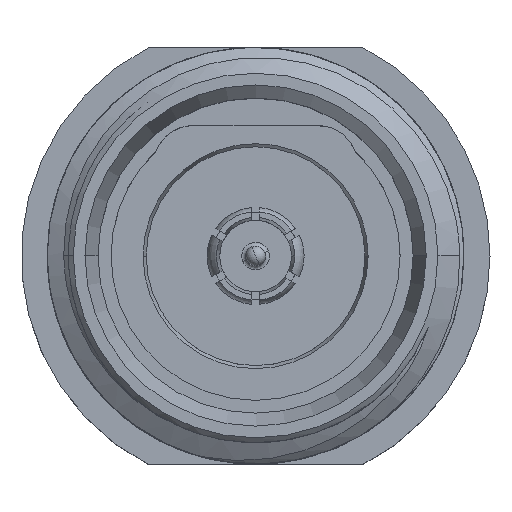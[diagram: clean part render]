
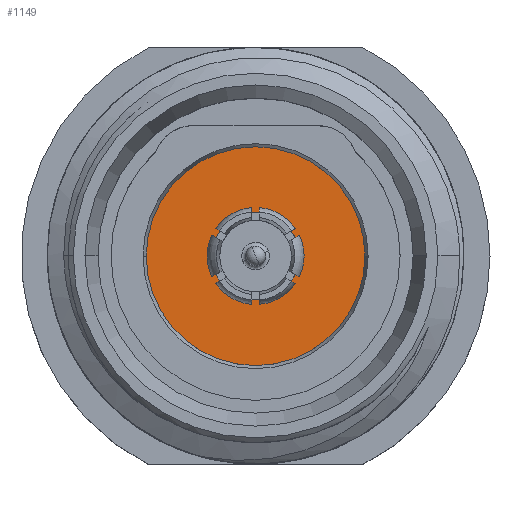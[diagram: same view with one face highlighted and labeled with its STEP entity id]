
A CAD part, top view. The second image highlights one B-rep face of the part: STEP entity #1149.
In plain terms, the highlighted planar face has unit normal (0, 0, 1).
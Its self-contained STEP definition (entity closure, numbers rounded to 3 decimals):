
#216 = DIRECTION ( 'NONE',  ( 0., 0., -1. ) ) ;
#589 = DIRECTION ( 'NONE',  ( 0., 0., -1. ) ) ;
#618 = DIRECTION ( 'NONE',  ( -1., 0., 0. ) ) ;
#955 = VERTEX_POINT ( 'NONE', #3684 ) ;
#1097 = EDGE_CURVE ( 'NONE', #8155, #955, #2480, .T. ) ;
#1149 = ADVANCED_FACE ( 'NONE', ( #7385, #2546 ), #1622, .F. ) ;
#1233 = DIRECTION ( 'NONE',  ( 0., 1., 0. ) ) ;
#1466 = AXIS2_PLACEMENT_3D ( 'NONE', #2512, #8780, #1233 ) ;
#1622 = PLANE ( 'NONE',  #2635 ) ;
#1711 = EDGE_CURVE ( 'NONE', #2489, #1712, #8300, .T. ) ;
#1712 = VERTEX_POINT ( 'NONE', #7360 ) ;
#1716 = DIRECTION ( 'NONE',  ( -1., 0., 0. ) ) ;
#1804 = CARTESIAN_POINT ( 'NONE',  ( 0., 0., 0. ) ) ;
#2330 = CIRCLE ( 'NONE', #1466, 4.2 ) ;
#2480 = CIRCLE ( 'NONE', #4800, 4.2 ) ;
#2489 = VERTEX_POINT ( 'NONE', #4111 ) ;
#2512 = CARTESIAN_POINT ( 'NONE',  ( 0., 0., 0. ) ) ;
#2546 = FACE_OUTER_BOUND ( 'NONE', #8220, .T. ) ;
#2613 = CIRCLE ( 'NONE', #4487, 1.675 ) ;
#2635 = AXIS2_PLACEMENT_3D ( 'NONE', #3625, #216, #6848 ) ;
#3086 = CARTESIAN_POINT ( 'NONE',  ( 0., -4.2, 0. ) ) ;
#3221 = DIRECTION ( 'NONE',  ( 0., 0., 1. ) ) ;
#3294 = DIRECTION ( 'NONE',  ( 0., 0., 1. ) ) ;
#3370 = DIRECTION ( 'NONE',  ( 0., 1., 0. ) ) ;
#3625 = CARTESIAN_POINT ( 'NONE',  ( 4.051, 0.903, 0. ) ) ;
#3684 = CARTESIAN_POINT ( 'NONE',  ( 0., 4.2, 0. ) ) ;
#3977 = AXIS2_PLACEMENT_3D ( 'NONE', #8739, #3294, #618 ) ;
#4111 = CARTESIAN_POINT ( 'NONE',  ( 1.675, 0., 0. ) ) ;
#4156 = EDGE_CURVE ( 'NONE', #955, #8155, #2330, .T. ) ;
#4487 = AXIS2_PLACEMENT_3D ( 'NONE', #1804, #3221, #1716 ) ;
#4800 = AXIS2_PLACEMENT_3D ( 'NONE', #8004, #589, #3370 ) ;
#5310 = EDGE_LOOP ( 'NONE', ( #6724, #6137 ) ) ;
#5469 = EDGE_CURVE ( 'NONE', #1712, #2489, #2613, .T. ) ;
#6137 = ORIENTED_EDGE ( 'NONE', *, *, #5469, .F. ) ;
#6665 = ORIENTED_EDGE ( 'NONE', *, *, #1097, .F. ) ;
#6724 = ORIENTED_EDGE ( 'NONE', *, *, #1711, .F. ) ;
#6848 = DIRECTION ( 'NONE',  ( -0.218, 0.976, 0. ) ) ;
#7360 = CARTESIAN_POINT ( 'NONE',  ( -1.675, 0., 0. ) ) ;
#7385 = FACE_BOUND ( 'NONE', #5310, .T. ) ;
#8004 = CARTESIAN_POINT ( 'NONE',  ( 0., 0., 0. ) ) ;
#8155 = VERTEX_POINT ( 'NONE', #3086 ) ;
#8220 = EDGE_LOOP ( 'NONE', ( #8387, #6665 ) ) ;
#8300 = CIRCLE ( 'NONE', #3977, 1.675 ) ;
#8387 = ORIENTED_EDGE ( 'NONE', *, *, #4156, .F. ) ;
#8739 = CARTESIAN_POINT ( 'NONE',  ( 0., 0., 0. ) ) ;
#8780 = DIRECTION ( 'NONE',  ( 0., 0., -1. ) ) ;
